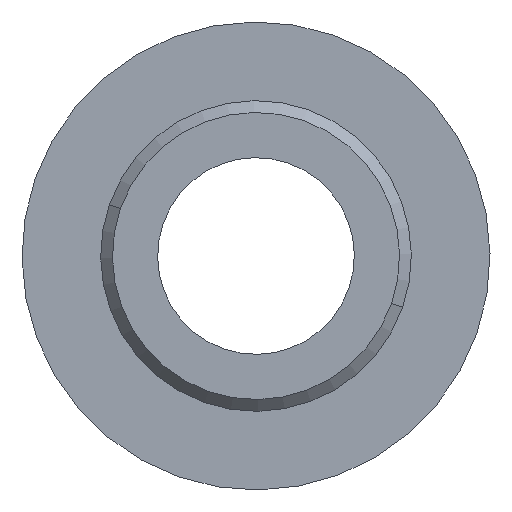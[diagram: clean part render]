
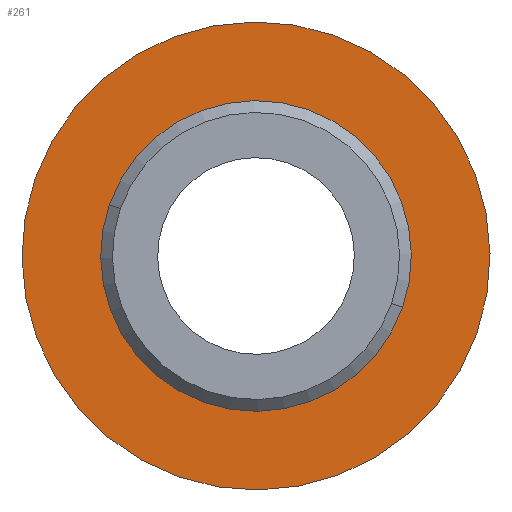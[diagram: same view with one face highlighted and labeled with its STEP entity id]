
A CAD part, front view. The second image highlights one B-rep face of the part: STEP entity #261.
In plain terms, the highlighted planar face has unit normal (0, -1, 0).
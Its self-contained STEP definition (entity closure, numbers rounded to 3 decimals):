
#18 = VERTEX_POINT ( 'NONE', #29 ) ;
#24 = AXIS2_PLACEMENT_3D ( 'NONE', #307, #177, #106 ) ;
#29 = CARTESIAN_POINT ( 'NONE',  ( 321.272, 15., -17.495 ) ) ;
#30 = CIRCLE ( 'NONE', #24, 3.95 ) ;
#40 = VERTEX_POINT ( 'NONE', #254 ) ;
#41 = CARTESIAN_POINT ( 'NONE',  ( 325., 15., -18.8 ) ) ;
#46 = EDGE_CURVE ( 'NONE', #118, #18, #30, .T. ) ;
#47 = ORIENTED_EDGE ( 'NONE', *, *, #216, .T. ) ;
#48 = AXIS2_PLACEMENT_3D ( 'NONE', #139, #264, #239 ) ;
#50 = ORIENTED_EDGE ( 'NONE', *, *, #89, .T. ) ;
#75 = VERTEX_POINT ( 'NONE', #108 ) ;
#89 = EDGE_CURVE ( 'NONE', #75, #40, #237, .T. ) ;
#92 = CARTESIAN_POINT ( 'NONE',  ( 325., 15., -18.8 ) ) ;
#104 = EDGE_LOOP ( 'NONE', ( #50, #47 ) ) ;
#106 = DIRECTION ( 'NONE',  ( 0.944, 0., -0.33 ) ) ;
#108 = CARTESIAN_POINT ( 'NONE',  ( 330.616, 15., -20.766 ) ) ;
#111 = AXIS2_PLACEMENT_3D ( 'NONE', #41, #228, #172 ) ;
#118 = VERTEX_POINT ( 'NONE', #305 ) ;
#127 = AXIS2_PLACEMENT_3D ( 'NONE', #92, #286, #141 ) ;
#129 = ORIENTED_EDGE ( 'NONE', *, *, #240, .F. ) ;
#131 = CIRCLE ( 'NONE', #48, 5.95 ) ;
#139 = CARTESIAN_POINT ( 'NONE',  ( 325., 15., -18.8 ) ) ;
#141 = DIRECTION ( 'NONE',  ( 0.944, 0., -0.33 ) ) ;
#147 = FACE_OUTER_BOUND ( 'NONE', #104, .T. ) ;
#156 = AXIS2_PLACEMENT_3D ( 'NONE', #178, #201, #200 ) ;
#172 = DIRECTION ( 'NONE',  ( -0.944, 0., 0.33 ) ) ;
#177 = DIRECTION ( 'NONE',  ( 0., 1., 0. ) ) ;
#178 = CARTESIAN_POINT ( 'NONE',  ( 325., 15., -18.8 ) ) ;
#200 = DIRECTION ( 'NONE',  ( 0., 0., 1. ) ) ;
#201 = DIRECTION ( 'NONE',  ( 0., -1., 0. ) ) ;
#216 = EDGE_CURVE ( 'NONE', #40, #75, #131, .T. ) ;
#228 = DIRECTION ( 'NONE',  ( 0., 1., 0. ) ) ;
#237 = CIRCLE ( 'NONE', #156, 5.95 ) ;
#239 = DIRECTION ( 'NONE',  ( 0., 0., 1. ) ) ;
#240 = EDGE_CURVE ( 'NONE', #118, #18, #265, .T. ) ;
#254 = CARTESIAN_POINT ( 'NONE',  ( 319.384, 15., -16.834 ) ) ;
#260 = FACE_BOUND ( 'NONE', #274, .T. ) ;
#261 = ADVANCED_FACE ( 'NONE', ( #260, #147 ), #295, .F. ) ;
#264 = DIRECTION ( 'NONE',  ( 0., -1., 0. ) ) ;
#265 = CIRCLE ( 'NONE', #127, 3.95 ) ;
#274 = EDGE_LOOP ( 'NONE', ( #129, #294 ) ) ;
#286 = DIRECTION ( 'NONE',  ( 0., -1., 0. ) ) ;
#294 = ORIENTED_EDGE ( 'NONE', *, *, #46, .T. ) ;
#295 = PLANE ( 'NONE',  #111 ) ;
#305 = CARTESIAN_POINT ( 'NONE',  ( 328.728, 15., -20.105 ) ) ;
#307 = CARTESIAN_POINT ( 'NONE',  ( 325., 15., -18.8 ) ) ;
